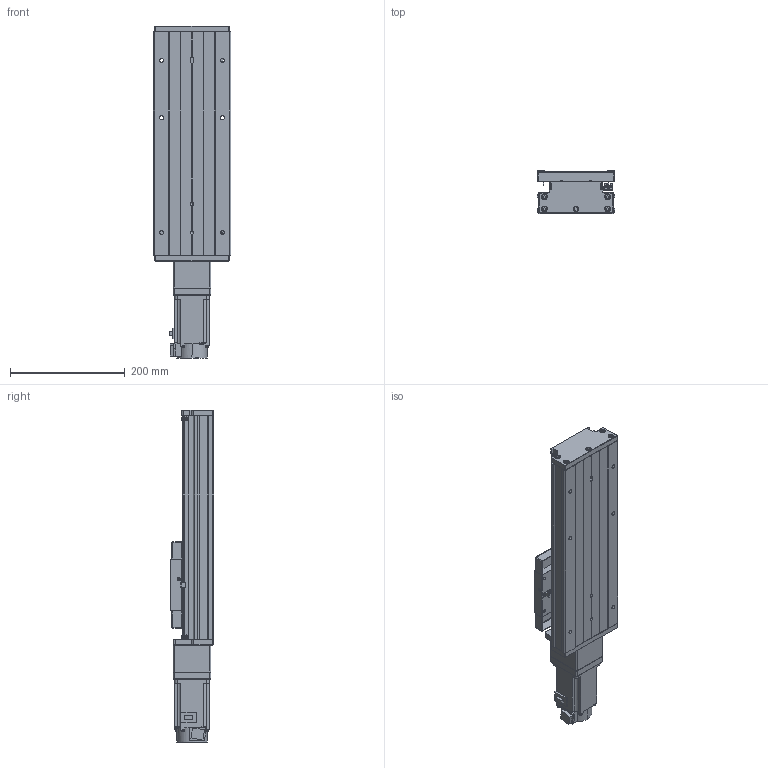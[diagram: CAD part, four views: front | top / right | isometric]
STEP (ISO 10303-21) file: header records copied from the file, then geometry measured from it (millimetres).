
FILE_DESCRIPTION (( 'STEP AP203' ), '1' );
FILE_NAME ('CTH130-200-BC-M40-C4.step', '2023-06-30T02:32:17', ( '微软用户' ), ( '微软中国' ), 'SwSTEP 2.0', 'SolidWorks 2020', '' );
FILE_SCHEMA (( 'CONFIG_CONTROL_DESIGN' ));
Length unit declared in the file: millimetre
Products named in the file (21): CTHA86-013; GTH14-004; GBT 70.1-M3℅5; CTHA86-027-1; GTH14-005; GBT77-2000 M3×3; GBT 70.3-M3℅8; GB1155-6X6; CTH130-031; HG-KN43J-S100; GBT70.1 M5℅16; GBT 70.2-M3¡Á5_M3¡Á6; CTH130-200-BC-M40-C4; GTH14-001_200; CTHA60-017; す晦芛蹟隊 M3℅5; CTH130-002_GTH14-002; EE_SX911P_R; CTHA86-006-1_M40; GB T308.1-2013-6.35; CTHA60-016
Assembly tree (59 placements, depth 2):
  CTH130-200-BC-M40-C4
    GTH14-001_200
    CTH130-002_GTH14-002
    GB T308.1-2013-6.35  x2
    GTH14-004
    GTH14-005
    GB1155-6X6  x2
    GBT70.1 M5℅16  x10
    CTHA60-017  x3
    EE_SX911P_R  x3
    CTHA60-016  x2
    GBT 70.1-M3℅5  x6
    GBT77-2000 M3×3  x6
    CTH130-031
    GBT 70.2-M3¡Á5_M3¡Á6  x8
    す晦芛蹟隊 M3℅5  x6
    CTHA86-006-1_M40
    CTHA86-013
    CTHA86-027-1
    GBT 70.3-M3℅8  x2
    HG-KN43J-S100
Bounding box: 135 x 76 x 578.7 mm (x, y, z)
Volume: 2805476.4 mm3; surface area: 492082.4 mm2
Topology: 62 solids, 62 shells, 2360 faces, 5633 edges, 3487 vertices
Faces by surface type: plane 1299, cylinder 610, cone 287, torus 120, sphere 24, bspline 20
Entity records: 43064 total; most frequent: CARTESIAN_POINT 9705, DIRECTION 6211, ORIENTED_EDGE 6166, EDGE_CURVE 3083, AXIS2_PLACEMENT_3D 2089, LINE 2033, VECTOR 2033, VERTEX_POINT 1947
